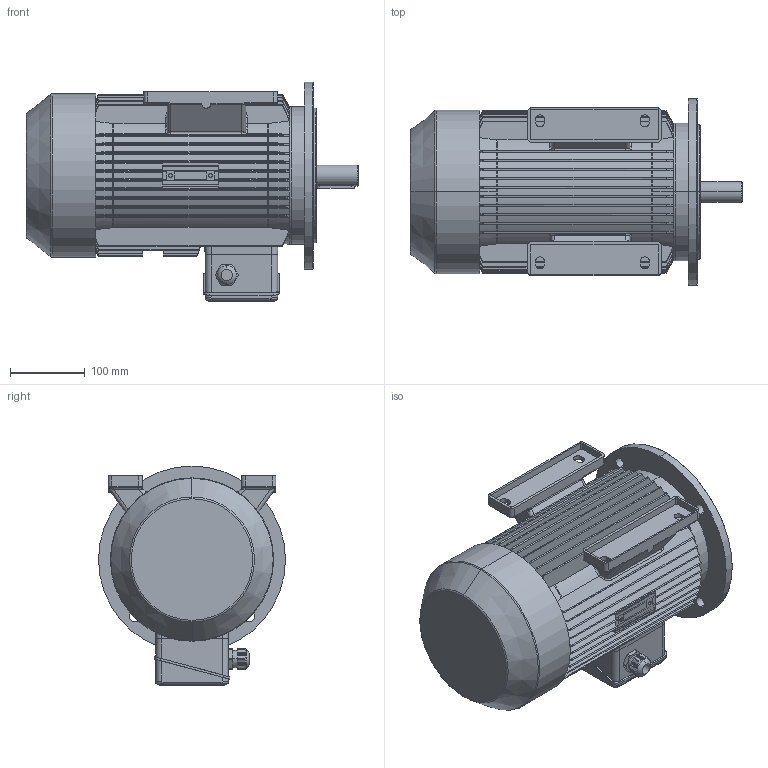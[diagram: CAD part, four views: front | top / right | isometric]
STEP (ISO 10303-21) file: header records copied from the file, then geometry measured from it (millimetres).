
FILE_DESCRIPTION (( 'STEP AP214' ), '1' );
FILE_NAME ('MAP112M6A IM2041 A250 FF215.STEP', '2021-03-05T14:45:21', ( '' ), ( '' ), 'SwSTEP 2.0', 'SolidWorks 2018', '' );
FILE_SCHEMA (( 'AUTOMOTIVE_DESIGN' ));
Length unit declared in the file: millimetre
Products named in the file (1): MAP112M6A IM2041 A250 FF215
Bounding box: 444 x 250 x 294 mm (x, y, z)
Volume: 12402139.4 mm3; surface area: 843624.5 mm2
Topology: 3 solids, 8 shells, 1300 faces, 3490 edges, 2222 vertices
Faces by surface type: plane 554, cylinder 326, cone 145, torus 128, bspline 125, sphere 22
Entity records: 50617 total; most frequent: CARTESIAN_POINT 20071, ORIENTED_EDGE 6928, DIRECTION 5633, EDGE_CURVE 3464, VERTEX_POINT 2222, AXIS2_PLACEMENT_3D 1990, LINE 1653, VECTOR 1653
